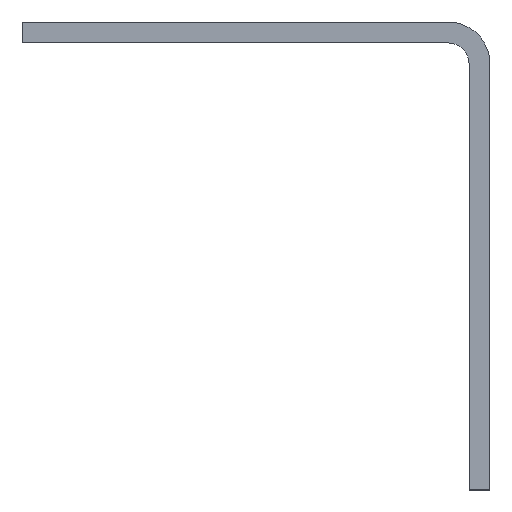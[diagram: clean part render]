
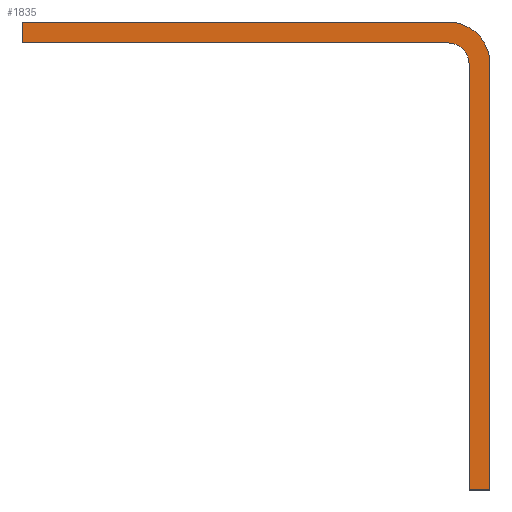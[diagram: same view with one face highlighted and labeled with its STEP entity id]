
A CAD part, front view. The second image highlights one B-rep face of the part: STEP entity #1835.
In plain terms, the highlighted planar face has unit normal (0, -1, 0).
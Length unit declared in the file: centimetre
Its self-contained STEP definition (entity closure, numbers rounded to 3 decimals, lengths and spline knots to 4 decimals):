
#35=VECTOR('',#2628,1.);
#38=VECTOR('',#2632,1.);
#43=VECTOR('',#2638,1.);
#48=VECTOR('',#2656,1.);
#51=VECTOR('',#2661,1.);
#52=VECTOR('',#2662,1.);
#55=LINE('',#3100,#35);
#58=LINE('',#3106,#38);
#63=LINE('',#3116,#43);
#68=LINE('',#3134,#48);
#71=LINE('',#3140,#51);
#72=LINE('',#3142,#52);
#79=PLANE('',#2107);
#254=VERTEX_POINT('',#3098);
#256=VERTEX_POINT('',#3101);
#258=VERTEX_POINT('',#3107);
#261=VERTEX_POINT('',#3114);
#262=VERTEX_POINT('',#3119);
#265=VERTEX_POINT('',#3127);
#267=VERTEX_POINT('',#3133);
#269=VERTEX_POINT('',#3141);
#442=CIRCLE('',#2100,0.3759);
#445=CIRCLE('',#2104,0.188);
#619=EDGE_CURVE('',#256,#254,#55,.T.);
#622=EDGE_CURVE('',#258,#256,#58,.T.);
#627=EDGE_CURVE('',#261,#258,#63,.T.);
#628=EDGE_CURVE('',#254,#262,#442,.T.);
#632=EDGE_CURVE('',#261,#265,#445,.T.);
#636=EDGE_CURVE('',#262,#267,#68,.T.);
#639=EDGE_CURVE('',#265,#269,#71,.T.);
#640=EDGE_CURVE('',#269,#267,#72,.T.);
#975=ORIENTED_EDGE('',*,*,#639,.F.);
#976=ORIENTED_EDGE('',*,*,#632,.F.);
#977=ORIENTED_EDGE('',*,*,#627,.T.);
#978=ORIENTED_EDGE('',*,*,#622,.T.);
#979=ORIENTED_EDGE('',*,*,#619,.T.);
#980=ORIENTED_EDGE('',*,*,#628,.T.);
#981=ORIENTED_EDGE('',*,*,#636,.T.);
#982=ORIENTED_EDGE('',*,*,#640,.F.);
#1342=EDGE_LOOP('',(#975,#976,#977,#978,#979,#980,#981,#982));
#1696=FACE_BOUND('',#1342,.T.);
#1835=ADVANCED_FACE('',(#1696),#79,.T.);
#2100=AXIS2_PLACEMENT_3D('',#3118,#2641,#2642);
#2104=AXIS2_PLACEMENT_3D('',#3126,#2650,#2651);
#2107=AXIS2_PLACEMENT_3D('',#3139,#2660,$);
#2628=DIRECTION('',(0.,0.,1.));
#2632=DIRECTION('',(1.,0.,0.));
#2638=DIRECTION('',(0.,0.,-1.));
#2641=DIRECTION('',(0.,-1.,0.));
#2642=DIRECTION('',(0.376,0.,0.));
#2650=DIRECTION('',(0.,-1.,0.));
#2651=DIRECTION('',(0.188,0.,0.));
#2656=DIRECTION('',(-1.,0.,0.));
#2660=DIRECTION('',(0.,-1.,0.));
#2661=DIRECTION('',(-1.,0.,0.));
#2662=DIRECTION('',(0.,0.,1.));
#3098=CARTESIAN_POINT('',(0.,-54.61,-0.188));
#3100=CARTESIAN_POINT('',(0.,-54.61,0.0084));
#3101=CARTESIAN_POINT('',(0.,-54.61,-4.003));
#3106=CARTESIAN_POINT('',(-0.188,-54.61,-4.003));
#3107=CARTESIAN_POINT('',(-0.188,-54.61,-4.003));
#3114=CARTESIAN_POINT('',(-0.188,-54.61,-0.188));
#3116=CARTESIAN_POINT('',(-0.188,-54.61,0.0084));
#3118=CARTESIAN_POINT('',(-0.3759,-54.61,-0.188));
#3119=CARTESIAN_POINT('',(-0.3759,-54.61,0.188));
#3126=CARTESIAN_POINT('',(-0.3759,-54.61,-0.188));
#3127=CARTESIAN_POINT('',(-0.3759,-54.61,0.));
#3133=CARTESIAN_POINT('',(-4.191,-54.61,0.188));
#3134=CARTESIAN_POINT('',(0.,-54.61,0.188));
#3139=CARTESIAN_POINT('',(-2.0955,-54.61,0.));
#3140=CARTESIAN_POINT('',(0.,-54.61,0.));
#3141=CARTESIAN_POINT('',(-4.191,-54.61,0.));
#3142=CARTESIAN_POINT('',(-4.191,-54.61,0.));
